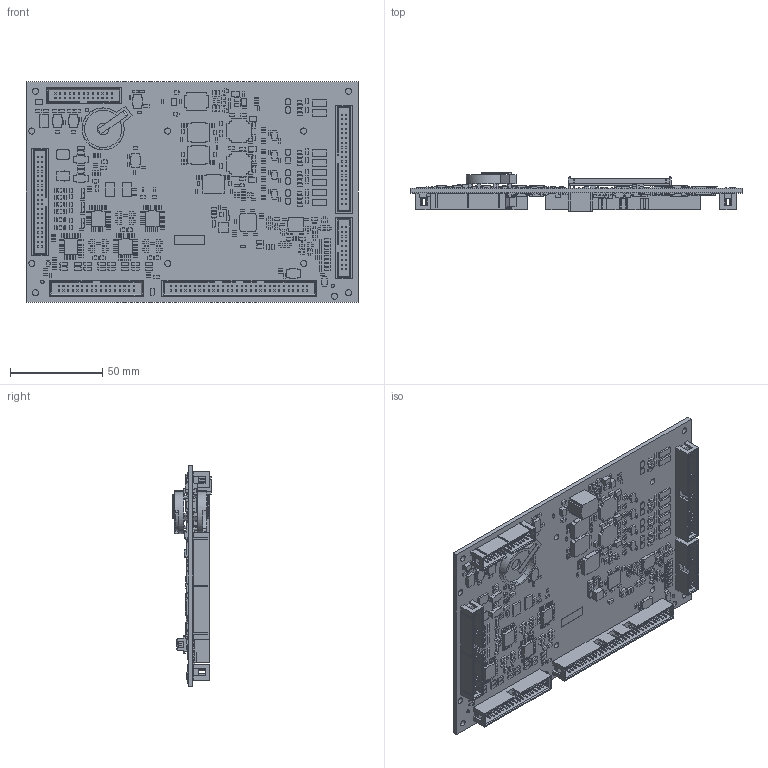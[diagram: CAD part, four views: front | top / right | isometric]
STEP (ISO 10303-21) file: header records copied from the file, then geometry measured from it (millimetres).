
FILE_DESCRIPTION((''),'2;1');
FILE_NAME('CU_NI-9683_W_COMPONENTS','2012-08-17T',('dkendric'),(''),'PRO/ENGINEER BY PARAMETRIC TECHNOLOGY CORPORATION, 2011490','PRO/ENGINEER BY PARAMETRIC TECHNOLOGY CORPORATION, 2011490','');
FILE_SCHEMA(('CONFIG_CONTROL_DESIGN'));
Products named in the file (1): CU_NI-9683_W_COMPONENTS
Bounding box: 179.83 x 20.95 x 119.38 mm (x, y, z)
Volume: 76324 mm3; surface area: 78146.8 mm2
Topology: 1 solids, 1 shells, 10878 faces, 28062 edges, 17943 vertices
Faces by surface type: plane 10558, cylinder 320
Entity records: 324515 total; most frequent: CARTESIAN_POINT 58558, ORIENTED_EDGE 56124, DIRECTION 50147, EDGE_CURVE 28062, VECTOR 27063, LINE 27063, VERTEX_POINT 17943, EDGE_LOOP 12605
